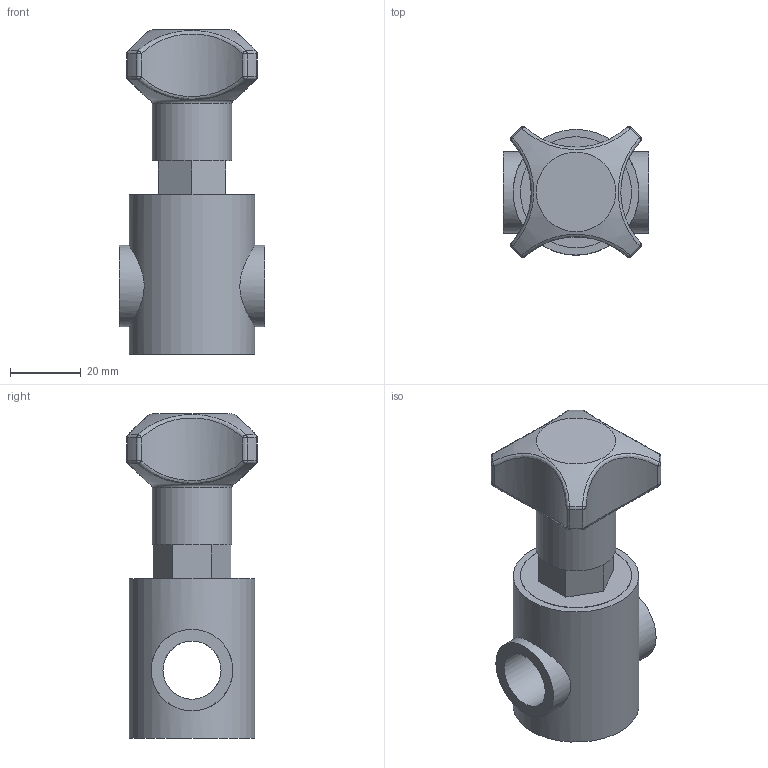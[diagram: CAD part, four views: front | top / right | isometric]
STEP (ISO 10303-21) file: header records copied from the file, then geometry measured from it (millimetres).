
FILE_DESCRIPTION(/* description */ ('Side guide knob GMB30'),/* implementation_level */ '2;1');
FILE_NAME(/* name */ 'SG1200040003.stp',/* time_stamp */ '2024-02-07T14:01:59+01:00',/* author */ ('r.biemans'),/* organization */ (''),/* preprocessor_version */ 'ST-DEVELOPER v19.2',/* originating_system */ 'Autodesk Inventor 2023',/* authorisation */ '');
FILE_SCHEMA (('AUTOMOTIVE_DESIGN { 1 0 10303 214 3 1 1 }'));
Length unit declared in the file: millimetre
Products named in the file (1): 234900SG010-A01
Bounding box: 41 x 36.97 x 91.6 mm (x, y, z)
Volume: 58521.5 mm3; surface area: 15694 mm2
Topology: 1 solids, 1 shells, 75 faces, 157 edges, 89 vertices
Faces by surface type: cylinder 25, sphere 16, plane 15, bspline 10, torus 9
Full cylindrical faces by diameter (mm): 10 x1, 16.4 x2, 20 x1, 22.5 x1, 23 x2, 31.388 x1, 35.5 x1
Entity records: 2696 total; most frequent: CARTESIAN_POINT 994, DIRECTION 341, ORIENTED_EDGE 314, EDGE_CURVE 157, AXIS2_PLACEMENT_3D 148, VERTEX_POINT 89, EDGE_LOOP 84, CIRCLE 82
